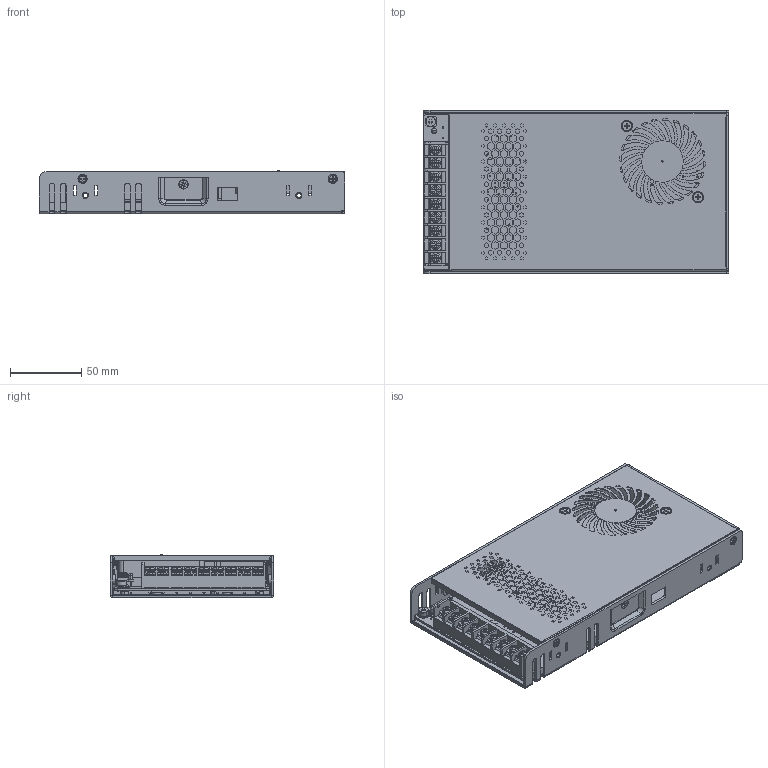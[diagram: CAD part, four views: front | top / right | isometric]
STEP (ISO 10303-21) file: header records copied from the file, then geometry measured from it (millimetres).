
FILE_DESCRIPTION((''),'2;1');
FILE_NAME('01-GW-ICPS350W24AA_ASM_13_ASM_ASM','2024-07-04T',('mingfu.wu'),(''),'PRO/ENGINEER BY PARAMETRIC TECHNOLOGY CORPORATION, 2011310','PRO/ENGINEER BY PARAMETRIC TECHNOLOGY CORPORATION, 2011310','');
FILE_SCHEMA(('AUTOMOTIVE_DESIGN { 1 0 10303 214 1 1 1 1 }'));
Products named in the file (33): GW-PB350AW-BOTTOM_15_7; LZ_3X6_2_4; GW-ICPS350W24AA-BOTTOM_ASM_4_AS_ASM; GW-PB350AW-TOP_17_27; BOARD_5; LEDC2-2_54-3-1_2; LED200_ASM_2_ASM_ASM; ASM0490_AF0_ASM_2_ASM_ASM; ERS350CWV0320240515_AF0_ASM_1_A_ASM; 1224042-PLASTIC_2_5; MFR-04424____1_3; MFR-04424-1____1_3; MFR-04424____ASM_1_ASM_3_ASM_ASM; M4-_1_3; M4_ASM_2_ASM_3_ASM_ASM; 1224042_ASM_3_ASM_3_ASM_ASM; BKT-1_ASM_6_ASM; M3X6_GB9074_4_AF0_3; M3X6_GB9074_4_AF1_3; M3X6_GB9074_4_AF2_3; M3X6_GB9074_4_AF3_3; M3X6_GB9074_4_AF4_3; 1326304-M3X9_2; PRT0002; PCBA-GW-ICPS350W24AA_ASM_11_ASM_ASM; FAN-6015_3_3; MYLAR-350W_12_6; 1280769_1; 1235182_1; GW-ICPS350W24AA_ASM_15_ASM_12_A_ASM; 1224184_2; LS_3-4_2; 01-GW-ICPS350W24AA_ASM_13_ASM_ASM
Assembly tree (53 placements, depth 7):
  01-GW-ICPS350W24AA_ASM_13_ASM_ASM
    GW-ICPS350W24AA_ASM_15_ASM_12_A_ASM
      GW-ICPS350W24AA-BOTTOM_ASM_4_AS_ASM
        GW-PB350AW-BOTTOM_15_7
        LZ_3X6_2_4  x5
      GW-PB350AW-TOP_17_27
      PCBA-GW-ICPS350W24AA_ASM_11_ASM_ASM
        ERS350CWV0320240515_AF0_ASM_1_A_ASM
          ASM0490_AF0_ASM_2_ASM_ASM
            BOARD_5
            LED200_ASM_2_ASM_ASM
              LEDC2-2_54-3-1_2
        1224042_ASM_3_ASM_3_ASM_ASM
          1224042-PLASTIC_2_5
          M4_ASM_2_ASM_3_ASM_ASM  x9
            MFR-04424____ASM_1_ASM_3_ASM_ASM
              MFR-04424____1_3
              MFR-04424-1____1_3
            M4-_1_3
        BKT-1_ASM_6_ASM  x4
        M3X6_GB9074_4_AF0_3
        M3X6_GB9074_4_AF1_3
        M3X6_GB9074_4_AF2_3
        M3X6_GB9074_4_AF3_3
        M3X6_GB9074_4_AF4_3
        1326304-M3X9_2
        PRT0002
      FAN-6015_3_3
      MYLAR-350W_12_6
      1280769_1
      1235182_1
    1224184_2  x2
    LS_3-4_2  x4
    1326304-M3X9_2  x2
Bounding box: 215 x 115 x 30.5 mm (x, y, z)
Volume: 158778 mm3; surface area: 251023.7 mm2
Topology: 56 solids, 62 shells, 4243 faces, 11689 edges, 7597 vertices
Faces by surface type: plane 2769, cylinder 1164, cone 148, bspline 85, torus 44, sphere 30, extrusion 3
Entity records: 140330 total; most frequent: CARTESIAN_POINT 27653, ORIENTED_EDGE 18464, DIRECTION 17498, EDGE_CURVE 9244, VECTOR 6512, LINE 6511, VERTEX_POINT 6073, PRESENTATION_STYLE_ASSIGNMENT 5836
